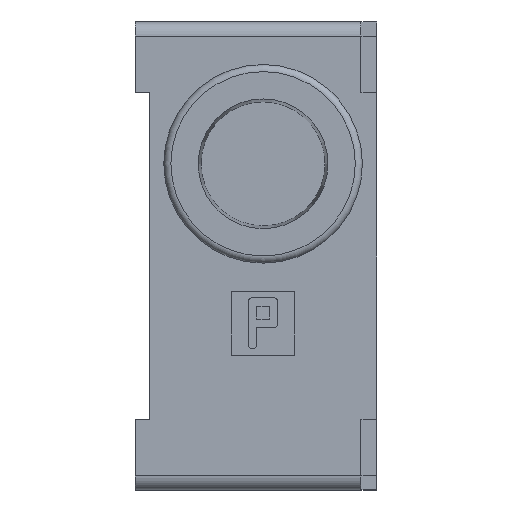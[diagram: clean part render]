
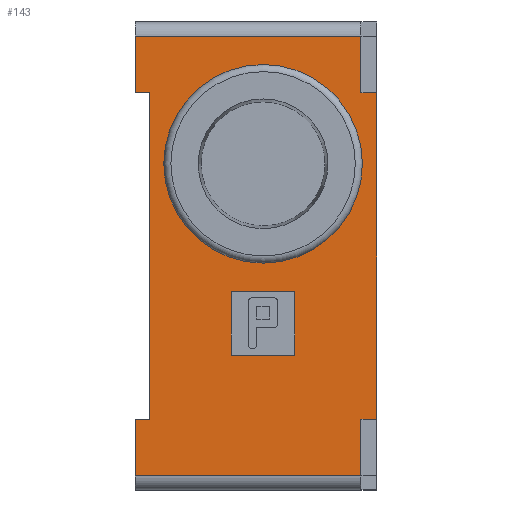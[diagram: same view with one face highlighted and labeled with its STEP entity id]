
A CAD part, left-side view. The second image highlights one B-rep face of the part: STEP entity #143.
In plain terms, the highlighted planar face has unit normal (-1, 0, 0).
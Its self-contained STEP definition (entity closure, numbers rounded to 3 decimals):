
#143=ADVANCED_FACE('',(#409,#410,#411),#412,.F.);
#409=FACE_BOUND('',#799,.T.);
#410=FACE_OUTER_BOUND('',#800,.T.);
#411=FACE_BOUND('',#801,.T.);
#412=PLANE('',#802);
#799=EDGE_LOOP('',(#1645));
#800=EDGE_LOOP('',(#1646,#1647,#1648,#1649,#1650,#1651,#1652,#1653,#1654,#1655,#1656,#1657));
#801=EDGE_LOOP('',(#1658,#1659,#1660,#1661));
#802=AXIS2_PLACEMENT_3D('',#1662,#1663,#1664);
#1645=ORIENTED_EDGE('',*,*,#2796,.F.);
#1646=ORIENTED_EDGE('',*,*,#2797,.F.);
#1647=ORIENTED_EDGE('',*,*,#2798,.T.);
#1648=ORIENTED_EDGE('',*,*,#2695,.T.);
#1649=ORIENTED_EDGE('',*,*,#2799,.F.);
#1650=ORIENTED_EDGE('',*,*,#2800,.T.);
#1651=ORIENTED_EDGE('',*,*,#2646,.T.);
#1652=ORIENTED_EDGE('',*,*,#2801,.F.);
#1653=ORIENTED_EDGE('',*,*,#2802,.F.);
#1654=ORIENTED_EDGE('',*,*,#2686,.T.);
#1655=ORIENTED_EDGE('',*,*,#2803,.T.);
#1656=ORIENTED_EDGE('',*,*,#2804,.T.);
#1657=ORIENTED_EDGE('',*,*,#2655,.F.);
#1658=ORIENTED_EDGE('',*,*,#2728,.T.);
#1659=ORIENTED_EDGE('',*,*,#2732,.T.);
#1660=ORIENTED_EDGE('',*,*,#2805,.T.);
#1661=ORIENTED_EDGE('',*,*,#2806,.T.);
#1662=CARTESIAN_POINT('',(9.0,13.556,44.778));
#1663=DIRECTION('',(1.0,0.0,0.0));
#1664=DIRECTION('',(0.0,0.0,-1.0));
#2646=EDGE_CURVE('',#3227,#3225,#3228,.T.);
#2655=EDGE_CURVE('',#3242,#3244,#3245,.T.);
#2686=EDGE_CURVE('',#3306,#3304,#3307,.T.);
#2695=EDGE_CURVE('',#3322,#3323,#3324,.F.);
#2728=EDGE_CURVE('',#3374,#3375,#3376,.T.);
#2732=EDGE_CURVE('',#3375,#3382,#3383,.T.);
#2796=EDGE_CURVE('',#3481,#3481,#3482,.T.);
#2797=EDGE_CURVE('',#3483,#3242,#3484,.T.);
#2798=EDGE_CURVE('',#3483,#3322,#3485,.T.);
#2799=EDGE_CURVE('',#3486,#3323,#3487,.T.);
#2800=EDGE_CURVE('',#3486,#3227,#3488,.T.);
#2801=EDGE_CURVE('',#3489,#3225,#3490,.T.);
#2802=EDGE_CURVE('',#3306,#3489,#3491,.T.);
#2803=EDGE_CURVE('',#3304,#3492,#3493,.T.);
#2804=EDGE_CURVE('',#3492,#3244,#3494,.T.);
#2805=EDGE_CURVE('',#3382,#3495,#3496,.T.);
#2806=EDGE_CURVE('',#3495,#3374,#3497,.T.);
#3225=VERTEX_POINT('',#4432);
#3227=VERTEX_POINT('',#4435);
#3228=LINE('',#4436,#4437);
#3242=VERTEX_POINT('',#4457);
#3244=VERTEX_POINT('',#4460);
#3245=LINE('',#4461,#4462);
#3304=VERTEX_POINT('',#4546);
#3306=VERTEX_POINT('',#4548);
#3307=LINE('',#4549,#4550);
#3322=VERTEX_POINT('',#4568);
#3323=VERTEX_POINT('',#4569);
#3324=LINE('',#4570,#4571);
#3374=VERTEX_POINT('',#4681);
#3375=VERTEX_POINT('',#4682);
#3376=LINE('',#4683,#4684);
#3382=VERTEX_POINT('',#4693);
#3383=LINE('',#4694,#4695);
#3481=VERTEX_POINT('',#4890);
#3482=CIRCLE('',#4891,7.0);
#3483=VERTEX_POINT('',#4892);
#3484=LINE('',#4893,#4894);
#3485=LINE('',#4895,#4896);
#3486=VERTEX_POINT('',#4897);
#3487=LINE('',#4898,#4899);
#3488=LINE('',#4900,#4901);
#3489=VERTEX_POINT('',#4902);
#3490=LINE('',#4903,#4904);
#3491=LINE('',#4905,#4906);
#3492=VERTEX_POINT('',#4907);
#3493=LINE('',#4908,#4909);
#3494=LINE('',#4910,#4911);
#3495=VERTEX_POINT('',#4912);
#3496=LINE('',#4913,#4914);
#3497=LINE('',#4915,#4916);
#4432=CARTESIAN_POINT('',(9.0,13.556,16.778));
#4435=CARTESIAN_POINT('',(9.0,13.556,39.778));
#4436=CARTESIAN_POINT('',(9.0,13.556,44.778));
#4437=VECTOR('',#5527,1.0);
#4457=CARTESIAN_POINT('',(9.0,-2.444,39.778));
#4460=CARTESIAN_POINT('',(9.0,-2.444,16.778));
#4461=CARTESIAN_POINT('',(9.0,-2.444,44.778));
#4462=VECTOR('',#5538,1.0);
#4546=CARTESIAN_POINT('',(9.,-1.344,12.778));
#4548=CARTESIAN_POINT('',(9.,14.556,12.778));
#4549=CARTESIAN_POINT('',(9.0,13.556,12.778));
#4550=VECTOR('',#5579,1.0);
#4568=CARTESIAN_POINT('',(9.0,-1.344,43.778));
#4569=CARTESIAN_POINT('',(9.0,14.556,43.778));
#4570=CARTESIAN_POINT('',(9.0,13.556,43.778));
#4571=VECTOR('',#5598,1.0);
#4681=CARTESIAN_POINT('',(9.0,7.806,21.278));
#4682=CARTESIAN_POINT('',(9.0,7.806,25.778));
#4683=CARTESIAN_POINT('',(9.0,7.806,21.278));
#4684=VECTOR('',#5640,1.0);
#4693=CARTESIAN_POINT('',(9.0,3.306,25.778));
#4694=CARTESIAN_POINT('',(9.0,7.806,25.778));
#4695=VECTOR('',#5644,1.0);
#4890=CARTESIAN_POINT('',(9.0,12.556,34.778));
#4891=AXIS2_PLACEMENT_3D('',#5727,#5728,#5729);
#4892=CARTESIAN_POINT('',(9.0,-1.344,39.778));
#4893=CARTESIAN_POINT('',(9.0,-1.344,39.778));
#4894=VECTOR('',#5730,1.0);
#4895=CARTESIAN_POINT('',(9.0,-1.344,39.778));
#4896=VECTOR('',#5731,1.0);
#4897=CARTESIAN_POINT('',(9.0,14.556,39.778));
#4898=CARTESIAN_POINT('',(9.0,14.556,39.778));
#4899=VECTOR('',#5732,1.0);
#4900=CARTESIAN_POINT('',(9.0,14.556,39.778));
#4901=VECTOR('',#5733,1.0);
#4902=CARTESIAN_POINT('',(9.0,14.556,16.778));
#4903=CARTESIAN_POINT('',(9.0,14.556,16.778));
#4904=VECTOR('',#5734,1.0);
#4905=CARTESIAN_POINT('',(9.0,14.556,12.778));
#4906=VECTOR('',#5735,1.0);
#4907=CARTESIAN_POINT('',(9.0,-1.344,16.778));
#4908=CARTESIAN_POINT('',(9.,-1.344,12.778));
#4909=VECTOR('',#5736,1.0);
#4910=CARTESIAN_POINT('',(9.0,-1.344,16.778));
#4911=VECTOR('',#5737,1.0);
#4912=CARTESIAN_POINT('',(9.0,3.306,21.278));
#4913=CARTESIAN_POINT('',(9.0,3.306,25.778));
#4914=VECTOR('',#5738,1.0);
#4915=CARTESIAN_POINT('',(9.0,3.306,21.278));
#4916=VECTOR('',#5739,1.0);
#5527=DIRECTION('',(0.0,0.0,-1.0));
#5538=DIRECTION('',(0.0,0.0,-1.0));
#5579=DIRECTION('',(0.0,-1.0,0.0));
#5598=DIRECTION('',(0.0,-1.0,0.0));
#5640=DIRECTION('',(0.0,0.,1.0));
#5644=DIRECTION('',(0.0,-1.0,0.0));
#5727=CARTESIAN_POINT('',(9.0,5.556,34.778));
#5728=DIRECTION('',(-1.0,0.0,0.0));
#5729=DIRECTION('',(0.0,1.0,0.0));
#5730=DIRECTION('',(0.0,-1.0,0.0));
#5731=DIRECTION('',(0.,0.0,1.0));
#5732=DIRECTION('',(0.,0.0,1.0));
#5733=DIRECTION('',(0.0,-1.0,0.0));
#5734=DIRECTION('',(0.0,-1.0,0.0));
#5735=DIRECTION('',(0.,0.0,1.0));
#5736=DIRECTION('',(0.,0.0,1.0));
#5737=DIRECTION('',(0.0,-1.0,0.0));
#5738=DIRECTION('',(0.0,0.0,-1.0));
#5739=DIRECTION('',(0.0,1.0,0.0));
